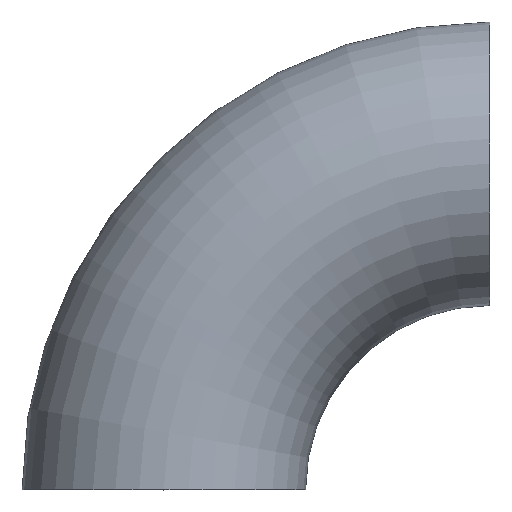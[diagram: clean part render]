
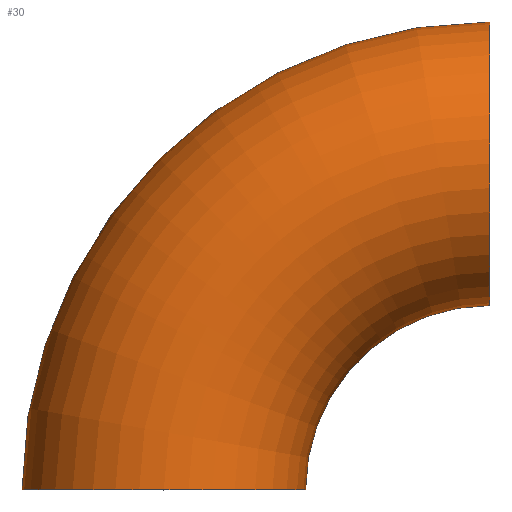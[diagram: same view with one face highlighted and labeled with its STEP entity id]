
A CAD part, top view. The second image highlights one B-rep face of the part: STEP entity #30.
In plain terms, the highlighted toroidal (fillet/blend) face has major radius 23 mm and minor radius 10 mm.
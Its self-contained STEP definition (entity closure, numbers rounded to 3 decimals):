
#4 = CARTESIAN_POINT ( 'NONE',  ( -10., 0., 0. ) ) ;
#23 = CIRCLE ( 'NONE', #247, 10. ) ;
#25 = FACE_OUTER_BOUND ( 'NONE', #89, .T. ) ;
#26 = CARTESIAN_POINT ( 'NONE',  ( 23., 23., 0. ) ) ;
#30 = ADVANCED_FACE ( 'NONE', ( #25 ), #135, .T. ) ;
#37 = CARTESIAN_POINT ( 'NONE',  ( 23., 0., 0. ) ) ;
#45 = CARTESIAN_POINT ( 'NONE',  ( 10., 0., 0. ) ) ;
#46 = AXIS2_PLACEMENT_3D ( 'NONE', #37, #110, #102 ) ;
#55 = AXIS2_PLACEMENT_3D ( 'NONE', #56, #245, #248 ) ;
#56 = CARTESIAN_POINT ( 'NONE',  ( 23., 0., 0. ) ) ;
#62 = DIRECTION ( 'NONE',  ( 0., 0., 1. ) ) ;
#69 = CIRCLE ( 'NONE', #177, 10. ) ;
#75 = VERTEX_POINT ( 'NONE', #108 ) ;
#76 = CIRCLE ( 'NONE', #226, 33. ) ;
#83 = ORIENTED_EDGE ( 'NONE', *, *, #153, .F. ) ;
#86 = DIRECTION ( 'NONE',  ( 0., 0., 1. ) ) ;
#89 = EDGE_LOOP ( 'NONE', ( #184, #103, #214, #83 ) ) ;
#102 = DIRECTION ( 'NONE',  ( 1., 0., 0. ) ) ;
#103 = ORIENTED_EDGE ( 'NONE', *, *, #166, .T. ) ;
#108 = CARTESIAN_POINT ( 'NONE',  ( 23., 13., 0. ) ) ;
#110 = DIRECTION ( 'NONE',  ( 0., 0., 1. ) ) ;
#135 = TOROIDAL_SURFACE ( 'NONE', #55, 23., 10. ) ;
#153 = EDGE_CURVE ( 'NONE', #75, #179, #165, .T. ) ;
#155 = EDGE_CURVE ( 'NONE', #190, #179, #23, .T. ) ;
#161 = CARTESIAN_POINT ( 'NONE',  ( 23., 33., 0. ) ) ;
#165 = CIRCLE ( 'NONE', #46, 13. ) ;
#166 = EDGE_CURVE ( 'NONE', #203, #190, #76, .T. ) ;
#176 = DIRECTION ( 'NONE',  ( 1., 0., 0. ) ) ;
#177 = AXIS2_PLACEMENT_3D ( 'NONE', #26, #230, #186 ) ;
#179 = VERTEX_POINT ( 'NONE', #45 ) ;
#184 = ORIENTED_EDGE ( 'NONE', *, *, #217, .F. ) ;
#186 = DIRECTION ( 'NONE',  ( 0., 0., 1. ) ) ;
#190 = VERTEX_POINT ( 'NONE', #4 ) ;
#195 = CARTESIAN_POINT ( 'NONE',  ( 23., 0., 0. ) ) ;
#203 = VERTEX_POINT ( 'NONE', #161 ) ;
#214 = ORIENTED_EDGE ( 'NONE', *, *, #155, .T. ) ;
#217 = EDGE_CURVE ( 'NONE', #203, #75, #69, .T. ) ;
#218 = DIRECTION ( 'NONE',  ( 0., 1., 0. ) ) ;
#226 = AXIS2_PLACEMENT_3D ( 'NONE', #195, #62, #176 ) ;
#230 = DIRECTION ( 'NONE',  ( 1., 0., 0. ) ) ;
#244 = CARTESIAN_POINT ( 'NONE',  ( 0., 0., 0. ) ) ;
#245 = DIRECTION ( 'NONE',  ( 0., 0., 1. ) ) ;
#247 = AXIS2_PLACEMENT_3D ( 'NONE', #244, #218, #86 ) ;
#248 = DIRECTION ( 'NONE',  ( 1., 0., 0. ) ) ;
